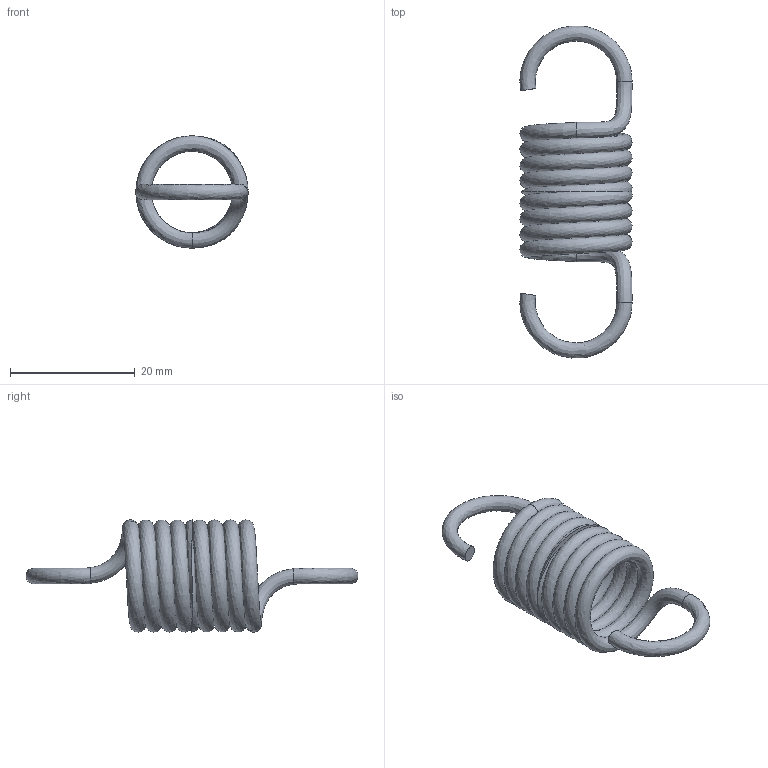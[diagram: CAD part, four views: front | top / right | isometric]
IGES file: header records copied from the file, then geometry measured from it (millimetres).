
Global section: file name: T11870; native system: Autodesk Inventor 2026; preprocessor: unknown; author: J. Iwanek; date: 20261005.095854; units: millimetre
Bounding box: 17.99 x 53.23 x 18 mm (x, y, z)
Volume: 2311.8 mm3; surface area: 3730.6 mm2
Topology: 1 solids, 1 shells, 10 faces, 32 edges, 20 vertices
Faces by surface type: bspline 10
